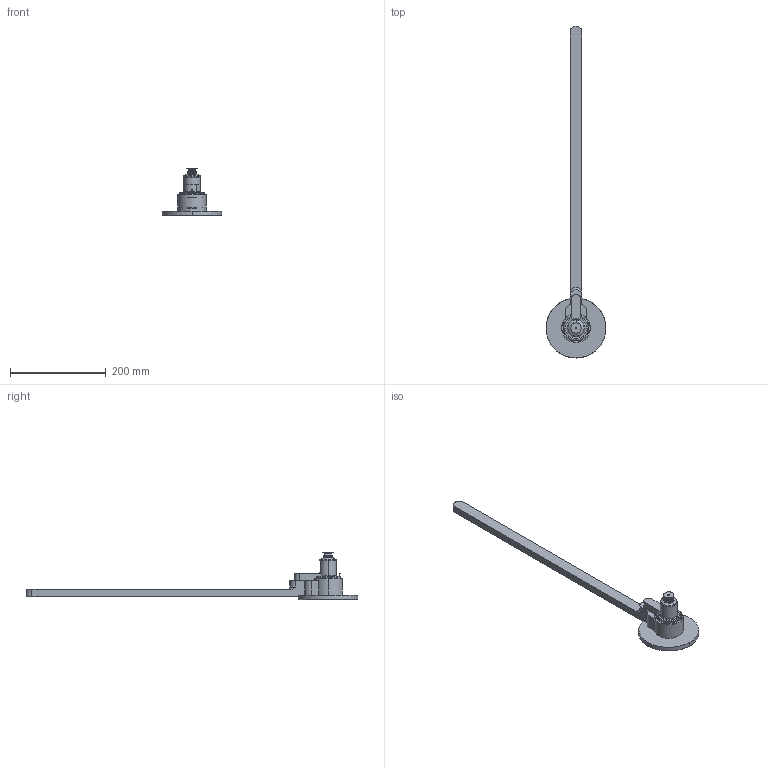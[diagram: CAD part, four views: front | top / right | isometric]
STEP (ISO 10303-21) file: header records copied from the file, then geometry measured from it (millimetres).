
FILE_DESCRIPTION (( 'STEP AP214' ), '1' );
FILE_NAME ('12S-06-060_TTW.STEP', '2023-01-12T09:31:30', ( '' ), ( '' ), 'SwSTEP 2.0', 'SolidWorks 2018', '' );
FILE_SCHEMA (( 'AUTOMOTIVE_DESIGN' ));
Length unit declared in the file: millimetre
Products named in the file (6): 12S-06 cutout_TTW; 12nt-ttw-01_dummy_12NT-TTW-01; 12e-06_12E06-TTW-060 L=60 J=12 K=12 Ring=0 Manf1 Set1; 12S-06 nozzle_TTW; 12S-06-060_TTW; 12nt-ttw-##-01_pdasm_12NT-TTW-01 (H2.5)
Assembly tree (5 placements, depth 4):
  12S-06-060_TTW
    12e-06_12E06-TTW-060 L=60 J=12 K=12 Ring=0 Manf1 Set1
      12nt-ttw-##-01_pdasm_12NT-TTW-01 (H2.5)
        12nt-ttw-01_dummy_12NT-TTW-01
    12S-06 nozzle_TTW
    12S-06 cutout_TTW
Bounding box: 125 x 693.5 x 100 mm (x, y, z)
Volume: 633975 mm3; surface area: 116504.9 mm2
Topology: 4 solids, 7 shells, 676 faces, 1665 edges, 1018 vertices
Faces by surface type: cylinder 226, plane 207, cone 128, torus 103, sphere 9, bspline 3
Entity records: 23273 total; most frequent: CARTESIAN_POINT 4761, DIRECTION 3635, ORIENTED_EDGE 3306, EDGE_CURVE 1654, AXIS2_PLACEMENT_3D 1463, VERTEX_POINT 1018, CIRCLE 779, EDGE_LOOP 713
